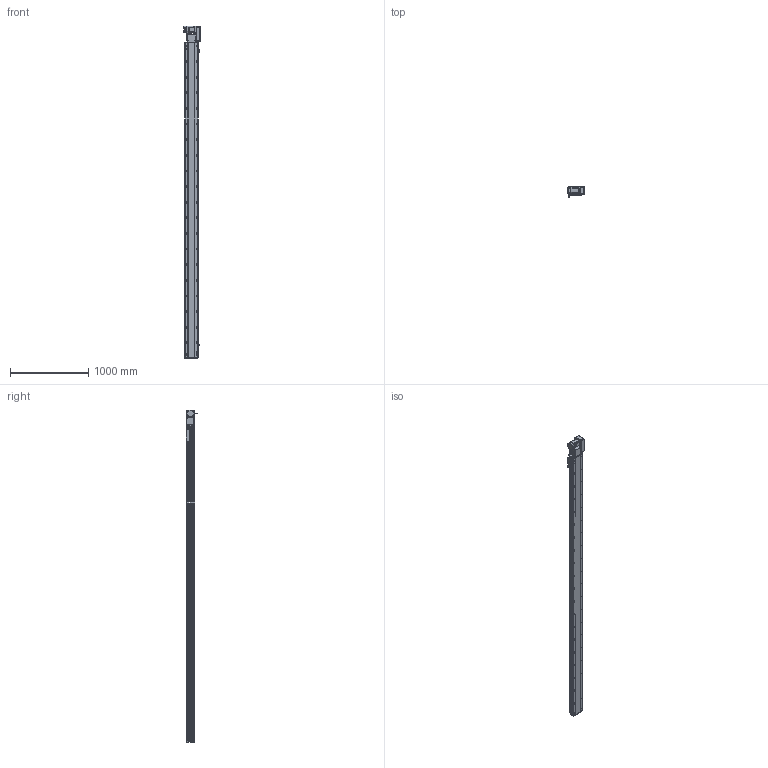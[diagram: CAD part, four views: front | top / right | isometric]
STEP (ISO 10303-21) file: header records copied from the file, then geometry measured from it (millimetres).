
FILE_DESCRIPTION (( 'STEP AP214' ), '1' );
FILE_NAME ('RTB17S-XX-3750-R-M75-C4.STEP', '2025-12-12T01:55:21', ( '' ), ( '' ), 'SwSTEP 2.0', 'SolidWorks 2018', '' );
FILE_SCHEMA (( 'AUTOMOTIVE_DESIGN' ));
Length unit declared in the file: millimetre
Products named in the file (15): RTB17S-XX-3750-R-M75-C4; 750W萇儂^RTB17S-XX-XX-R-M75-C4; RTB17S-L-014-T20-P75--々湍釱^RTB17S-R-々湍釱蚾饜-750W_RTB17S-XX-XX-R-M75-C4; RTB17-R-011菁釱^RTB17S-XX-XX-R-M75-C4; RTB17S-L-004-賑釱^RTB17S-賑釱_RTB17S-XX-XX-R-M75-C4; RTB17S-L-007奻裔^RTB17S-XX-XX-R-M75-C4; RTB22S-GY-005P^RTB17S-R-々湍釱蚾饜-750W_RTB17S-XX-XX-R-M75-C4; RTB17S-L-001-耜醱啣^RTB17S-XX-XX-R-M75-C4; EE672^RTB17S-XX-XX-R-M75-C4; RTB22S-GY-008-M75--萇儂啣^RTB17S-R-々湍釱蚾饜-750W_RTB17S-XX-XX-R-M75-C4; RTH13-BL-012覜茼え俋离^RTB17S-賑釱_RTB17S-XX-XX-R-M75-C4; RTB17S-R-々湍釱蚾饜-750W^RTB17S-XX-XX-R-M75-C4; RTB17S-賑釱^RTB17S-XX-XX-R-M75-C4; RTB22S-GY-017P^RTB17S-R-々湍釱蚾饜-750W_RTB17S-XX-XX-R-M75-C4; RTB22S-GY-018P^RTB17S-R-々湍釱蚾饜-750W_RTB17S-XX-XX-R-M75-C4
Assembly tree (17 placements, depth 3):
  RTB17S-XX-3750-R-M75-C4
    RTB17-R-011菁釱^RTB17S-XX-XX-R-M75-C4
    EE672^RTB17S-XX-XX-R-M75-C4  x3
    RTB17S-L-001-耜醱啣^RTB17S-XX-XX-R-M75-C4
    RTB17S-賑釱^RTB17S-XX-XX-R-M75-C4
      RTB17S-L-004-賑釱^RTB17S-賑釱_RTB17S-XX-XX-R-M75-C4
      RTH13-BL-012覜茼え俋离^RTB17S-賑釱_RTB17S-XX-XX-R-M75-C4
    RTB17S-L-007奻裔^RTB17S-XX-XX-R-M75-C4
    750W萇儂^RTB17S-XX-XX-R-M75-C4
    RTB17S-R-々湍釱蚾饜-750W^RTB17S-XX-XX-R-M75-C4
      RTB17S-L-014-T20-P75--々湍釱^RTB17S-R-々湍釱蚾饜-750W_RTB17S-XX-XX-R-M75-C4
      RTB22S-GY-005P^RTB17S-R-々湍釱蚾饜-750W_RTB17S-XX-XX-R-M75-C4
      RTB22S-GY-017P^RTB17S-R-々湍釱蚾饜-750W_RTB17S-XX-XX-R-M75-C4  x2
      RTB22S-GY-008-M75--萇儂啣^RTB17S-R-々湍釱蚾饜-750W_RTB17S-XX-XX-R-M75-C4
      RTB22S-GY-018P^RTB17S-R-々湍釱蚾饜-750W_RTB17S-XX-XX-R-M75-C4
Bounding box: 207.4 x 152.7 x 4249 mm (x, y, z)
Volume: 29391825.9 mm3; surface area: 5448824.4 mm2
Topology: 17 solids, 17 shells, 2313 faces, 6538 edges, 4238 vertices
Faces by surface type: plane 998, cylinder 899, bspline 294, cone 110, sphere 8, torus 4
Entity records: 68854 total; most frequent: CARTESIAN_POINT 20602, ORIENTED_EDGE 9920, DIRECTION 9122, EDGE_CURVE 4960, AXIS2_PLACEMENT_3D 3258, VERTEX_POINT 3242, VECTOR 2606, LINE 2606
